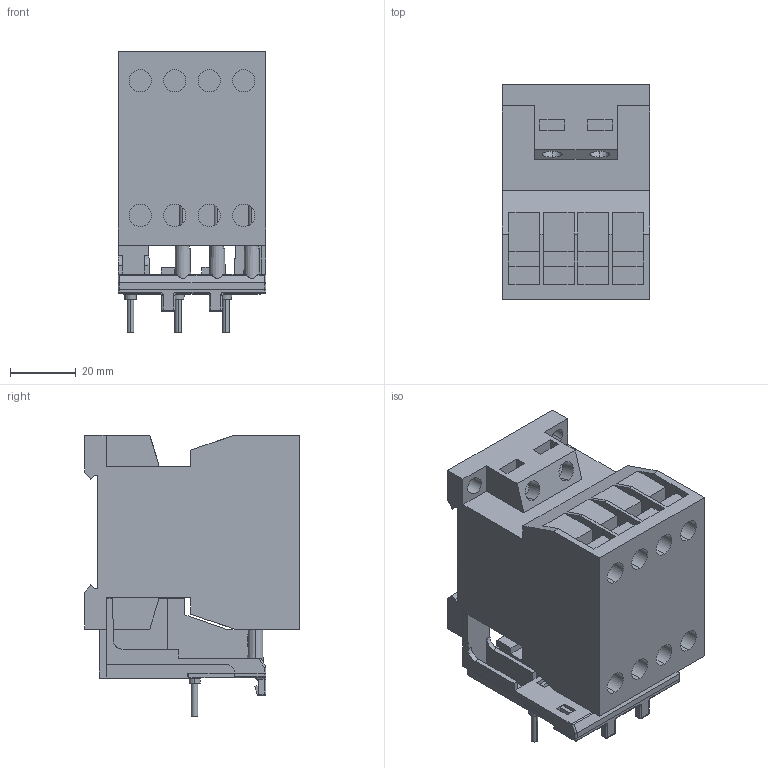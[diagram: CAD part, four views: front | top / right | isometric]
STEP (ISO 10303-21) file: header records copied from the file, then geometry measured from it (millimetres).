
FILE_DESCRIPTION (( 'STEP AP203' ), '1' );
FILE_NAME ('K3-10A_VK3.STEP', '2014-03-10T08:21:45', ( '' ), ( '' ), 'SwSTEP 2.0', 'SolidWorks 2014', '' );
FILE_SCHEMA (( 'CONFIG_CONTROL_DESIGN' ));
Length unit declared in the file: millimetre
Products named in the file (7): Imported; Imported_2; Imported_3; Imported_4; Imported_5; Imported_6; K3-10A_VK3
Assembly tree (6 placements, depth 2):
  K3-10A_VK3
    Imported
    Imported_2
    Imported_3
    Imported_4
    Imported_5
    Imported_6
Bounding box: 45 x 65.3 x 85.7 mm (x, y, z)
Volume: 148980.6 mm3; surface area: 40986.6 mm2
Topology: 6 solids, 6 shells, 782 faces, 2186 edges, 1424 vertices
Faces by surface type: plane 501, cylinder 177, cone 53, bspline 51
Entity records: 27711 total; most frequent: CARTESIAN_POINT 7090, ORIENTED_EDGE 4352, DIRECTION 3893, EDGE_CURVE 2176, LINE 1589, VECTOR 1589, VERTEX_POINT 1424, AXIS2_PLACEMENT_3D 1152
